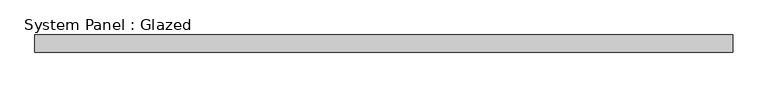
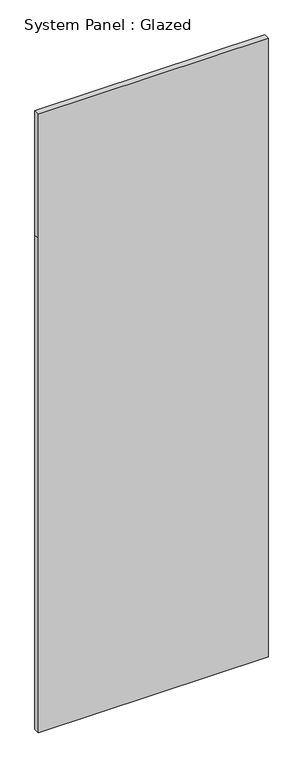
"""IFC4 building model written with IfcOpenShell, lengths in millimetres: plate geometry, System Panel : Glazed."""

from ifc_helpers import new_model, si_unit, frame, origin, place, context, project, spatial, polyline, outline, extrude, source, transform, mapped, element, save


def system_panel_glazed_f9930444(model_context):
    return source(origin(), model_context, "Body", "SweptSolid", [
        extrude(outline(polyline([(0.0, -498.7428573), (0.0, 498.7428573), (2270.0, 498.7428573), (2840.0, 498.7428573), (2840.0, -498.7428573), (2270.0, -498.7428573), (0.0, -498.7428573)])), frame((0.0, 0.0, 0.0), z_axis=(0.0, 1.0, 0.0), x_axis=(0.0, 0.0, 1.0)), (0.0, 0.0, 1.0), 25.0),
    ])


if __name__ == "__main__":
    model = new_model("IFC4")
    model_context = context("Model", 3, world=origin())
    ifc_project = project(units=[si_unit("LENGTHUNIT", "METRE", prefix="MILLI")], contexts=[model_context])
    site = spatial("IfcSite", under=ifc_project)
    building = spatial("IfcBuilding", under=site)
    placement = place(None, origin())
    system_panel_glazed_shape = system_panel_glazed_f9930444(model_context)
    element("IfcPlate", 1, ObjectType="System Panel : Glazed", at=placement, inside=building, context=model_context, shape_type="MappedRepresentation", body=[
        mapped(system_panel_glazed_shape, transform((0.0, 0.0, 0.0), x_axis=(1.0, 0.0, 0.0), y_axis=(0.0, 1.0, 0.0), z_axis=(0.0, 0.0, 1.0))),
    ])
    save(model, "model.ifc")
